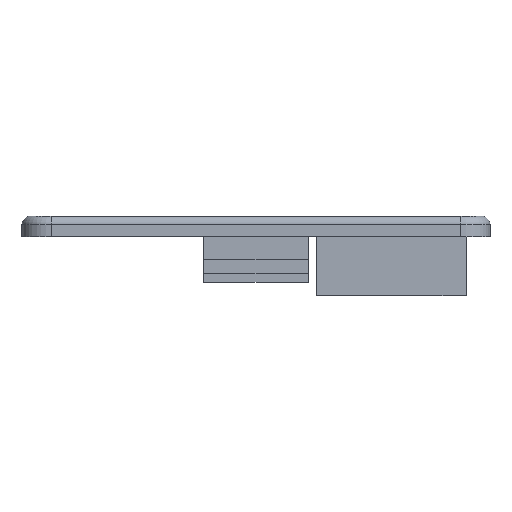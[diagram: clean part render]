
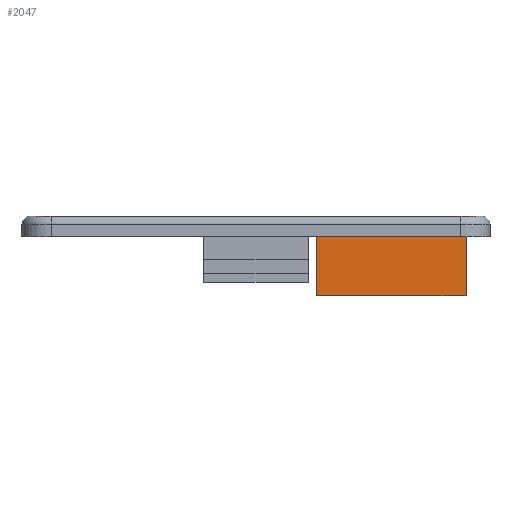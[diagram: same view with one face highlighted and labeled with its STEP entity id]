
A CAD part, left-side view. The second image highlights one B-rep face of the part: STEP entity #2047.
In plain terms, the highlighted planar face has unit normal (-1, 0, 0).
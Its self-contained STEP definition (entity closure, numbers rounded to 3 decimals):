
#126 = PLANE('',#127);
#127 = AXIS2_PLACEMENT_3D('',#128,#129,#130);
#128 = CARTESIAN_POINT('',(24.85,12.8,10.));
#129 = DIRECTION('',(0.,0.,1.));
#130 = DIRECTION('',(1.,0.,-0.));
#471 = VERTEX_POINT('',#472);
#472 = CARTESIAN_POINT('',(40.3,0.7,10.));
#488 = PLANE('',#489);
#489 = AXIS2_PLACEMENT_3D('',#490,#491,#492);
#490 = CARTESIAN_POINT('',(40.3,0.7,6.6));
#491 = DIRECTION('',(0.,1.,0.));
#492 = DIRECTION('',(1.,0.,0.));
#500 = EDGE_CURVE('',#501,#471,#503,.T.);
#501 = VERTEX_POINT('',#502);
#502 = CARTESIAN_POINT('',(40.3,9.3,10.));
#503 = SURFACE_CURVE('',#504,(#508,#515),.PCURVE_S1.);
#504 = LINE('',#505,#506);
#505 = CARTESIAN_POINT('',(40.3,9.3,10.));
#506 = VECTOR('',#507,1.);
#507 = DIRECTION('',(0.,-1.,0.));
#508 = PCURVE('',#126,#509);
#509 = DEFINITIONAL_REPRESENTATION('',(#510),#514);
#510 = LINE('',#511,#512);
#511 = CARTESIAN_POINT('',(15.45,-3.5));
#512 = VECTOR('',#513,1.);
#513 = DIRECTION('',(0.,-1.));
#514 = ( GEOMETRIC_REPRESENTATION_CONTEXT(2) 
PARAMETRIC_REPRESENTATION_CONTEXT() REPRESENTATION_CONTEXT('2D SPACE',''
  ) );
#515 = PCURVE('',#516,#521);
#516 = PLANE('',#517);
#517 = AXIS2_PLACEMENT_3D('',#518,#519,#520);
#518 = CARTESIAN_POINT('',(40.3,9.3,6.6));
#519 = DIRECTION('',(1.,0.,-0.));
#520 = DIRECTION('',(0.,-1.,0.));
#521 = DEFINITIONAL_REPRESENTATION('',(#522),#526);
#522 = LINE('',#523,#524);
#523 = CARTESIAN_POINT('',(0.,-3.4));
#524 = VECTOR('',#525,1.);
#525 = DIRECTION('',(1.,0.));
#526 = ( GEOMETRIC_REPRESENTATION_CONTEXT(2) 
PARAMETRIC_REPRESENTATION_CONTEXT() REPRESENTATION_CONTEXT('2D SPACE',''
  ) );
#544 = PLANE('',#545);
#545 = AXIS2_PLACEMENT_3D('',#546,#547,#548);
#546 = CARTESIAN_POINT('',(48.9,9.3,6.6));
#547 = DIRECTION('',(0.,-1.,0.));
#548 = DIRECTION('',(-1.,0.,0.));
#1975 = EDGE_CURVE('',#1976,#471,#1978,.T.);
#1976 = VERTEX_POINT('',#1977);
#1977 = CARTESIAN_POINT('',(40.3,0.7,6.6));
#1978 = SURFACE_CURVE('',#1979,(#1983,#1990),.PCURVE_S1.);
#1979 = LINE('',#1980,#1981);
#1980 = CARTESIAN_POINT('',(40.3,0.7,6.6));
#1981 = VECTOR('',#1982,1.);
#1982 = DIRECTION('',(0.,0.,1.));
#1983 = PCURVE('',#488,#1984);
#1984 = DEFINITIONAL_REPRESENTATION('',(#1985),#1989);
#1985 = LINE('',#1986,#1987);
#1986 = CARTESIAN_POINT('',(0.,0.));
#1987 = VECTOR('',#1988,1.);
#1988 = DIRECTION('',(0.,-1.));
#1989 = ( GEOMETRIC_REPRESENTATION_CONTEXT(2) 
PARAMETRIC_REPRESENTATION_CONTEXT() REPRESENTATION_CONTEXT('2D SPACE',''
  ) );
#1990 = PCURVE('',#516,#1991);
#1991 = DEFINITIONAL_REPRESENTATION('',(#1992),#1996);
#1992 = LINE('',#1993,#1994);
#1993 = CARTESIAN_POINT('',(8.6,0.));
#1994 = VECTOR('',#1995,1.);
#1995 = DIRECTION('',(0.,-1.));
#1996 = ( GEOMETRIC_REPRESENTATION_CONTEXT(2) 
PARAMETRIC_REPRESENTATION_CONTEXT() REPRESENTATION_CONTEXT('2D SPACE',''
  ) );
#2036 = PLANE('',#2037);
#2037 = AXIS2_PLACEMENT_3D('',#2038,#2039,#2040);
#2038 = CARTESIAN_POINT('',(44.6,5.,6.6));
#2039 = DIRECTION('',(0.,0.,1.));
#2040 = DIRECTION('',(1.,0.,-0.));
#2047 = ADVANCED_FACE('',(#2048),#516,.F.);
#2048 = FACE_BOUND('',#2049,.F.);
#2049 = EDGE_LOOP('',(#2050,#2073,#2074,#2075));
#2050 = ORIENTED_EDGE('',*,*,#2051,.T.);
#2051 = EDGE_CURVE('',#2052,#501,#2054,.T.);
#2052 = VERTEX_POINT('',#2053);
#2053 = CARTESIAN_POINT('',(40.3,9.3,6.6));
#2054 = SURFACE_CURVE('',#2055,(#2059,#2066),.PCURVE_S1.);
#2055 = LINE('',#2056,#2057);
#2056 = CARTESIAN_POINT('',(40.3,9.3,6.6));
#2057 = VECTOR('',#2058,1.);
#2058 = DIRECTION('',(0.,0.,1.));
#2059 = PCURVE('',#516,#2060);
#2060 = DEFINITIONAL_REPRESENTATION('',(#2061),#2065);
#2061 = LINE('',#2062,#2063);
#2062 = CARTESIAN_POINT('',(0.,0.));
#2063 = VECTOR('',#2064,1.);
#2064 = DIRECTION('',(0.,-1.));
#2065 = ( GEOMETRIC_REPRESENTATION_CONTEXT(2) 
PARAMETRIC_REPRESENTATION_CONTEXT() REPRESENTATION_CONTEXT('2D SPACE',''
  ) );
#2066 = PCURVE('',#544,#2067);
#2067 = DEFINITIONAL_REPRESENTATION('',(#2068),#2072);
#2068 = LINE('',#2069,#2070);
#2069 = CARTESIAN_POINT('',(8.6,0.));
#2070 = VECTOR('',#2071,1.);
#2071 = DIRECTION('',(0.,-1.));
#2072 = ( GEOMETRIC_REPRESENTATION_CONTEXT(2) 
PARAMETRIC_REPRESENTATION_CONTEXT() REPRESENTATION_CONTEXT('2D SPACE',''
  ) );
#2073 = ORIENTED_EDGE('',*,*,#500,.T.);
#2074 = ORIENTED_EDGE('',*,*,#1975,.F.);
#2075 = ORIENTED_EDGE('',*,*,#2076,.F.);
#2076 = EDGE_CURVE('',#2052,#1976,#2077,.T.);
#2077 = SURFACE_CURVE('',#2078,(#2082,#2089),.PCURVE_S1.);
#2078 = LINE('',#2079,#2080);
#2079 = CARTESIAN_POINT('',(40.3,9.3,6.6));
#2080 = VECTOR('',#2081,1.);
#2081 = DIRECTION('',(0.,-1.,0.));
#2082 = PCURVE('',#516,#2083);
#2083 = DEFINITIONAL_REPRESENTATION('',(#2084),#2088);
#2084 = LINE('',#2085,#2086);
#2085 = CARTESIAN_POINT('',(0.,0.));
#2086 = VECTOR('',#2087,1.);
#2087 = DIRECTION('',(1.,0.));
#2088 = ( GEOMETRIC_REPRESENTATION_CONTEXT(2) 
PARAMETRIC_REPRESENTATION_CONTEXT() REPRESENTATION_CONTEXT('2D SPACE',''
  ) );
#2089 = PCURVE('',#2036,#2090);
#2090 = DEFINITIONAL_REPRESENTATION('',(#2091),#2095);
#2091 = LINE('',#2092,#2093);
#2092 = CARTESIAN_POINT('',(-4.3,4.3));
#2093 = VECTOR('',#2094,1.);
#2094 = DIRECTION('',(0.,-1.));
#2095 = ( GEOMETRIC_REPRESENTATION_CONTEXT(2) 
PARAMETRIC_REPRESENTATION_CONTEXT() REPRESENTATION_CONTEXT('2D SPACE',''
  ) );
